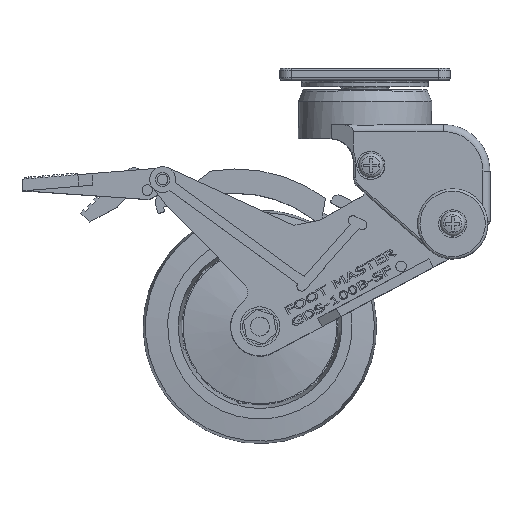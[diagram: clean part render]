
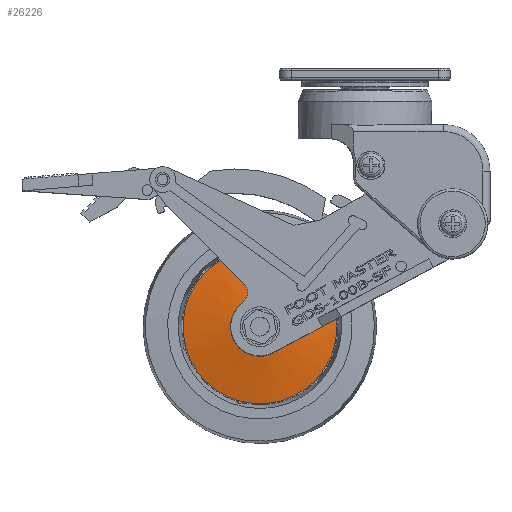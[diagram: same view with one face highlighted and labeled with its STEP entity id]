
A CAD part, top view. The second image highlights one B-rep face of the part: STEP entity #26226.
In plain terms, the highlighted conical face has half-angle 79.854 degrees and reference radius 22.801 mm.
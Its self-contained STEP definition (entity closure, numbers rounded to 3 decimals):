
#15240=CARTESIAN_POINT('',(107.019,94.149,19.8));
#15241=VERTEX_POINT('',#15240);
#15248=CARTESIAN_POINT('',(91.71,114.198,19.8));
#15249=VERTEX_POINT('',#15248);
#15250=CARTESIAN_POINT('',(99.621,104.369,19.8));
#15251=DIRECTION('',(0.0,0.0,1.0));
#15252=DIRECTION('',(0.961,0.276,0.0));
#15253=AXIS2_PLACEMENT_3D('',#15250,#15251,#15252);
#15254=CIRCLE('',#15253,12.617);
#15255=EDGE_CURVE('',#15241,#15249,#15254,.T.);
#26200=CARTESIAN_POINT('',(99.621,104.369,17.977));
#26201=DIRECTION('',(0.0,0.0,-1.0));
#26202=DIRECTION('',(0.961,0.276,0.0));
#26203=AXIS2_PLACEMENT_3D('',#26200,#26201,#26202);
#26204=CONICAL_SURFACE('',#26203,22.801,79.854);
#26205=CARTESIAN_POINT('',(99.621,104.369,19.8));
#26206=DIRECTION('',(0.0,0.0,1.0));
#26207=DIRECTION('',(0.961,0.276,0.0));
#26208=AXIS2_PLACEMENT_3D('',#26205,#26206,#26207);
#26209=CIRCLE('',#26208,12.617);
#26210=EDGE_CURVE('',#15249,#15241,#26209,.T.);
#26211=ORIENTED_EDGE('',*,*,#26210,.F.);
#26212=ORIENTED_EDGE('',*,*,#15255,.F.);
#26213=EDGE_LOOP('',(#26211,#26212));
#26214=FACE_OUTER_BOUND('',#26213,.T.);
#26215=CARTESIAN_POINT('',(67.915,95.272,16.155));
#26216=VERTEX_POINT('',#26215);
#26217=CARTESIAN_POINT('',(99.621,104.369,16.155));
#26218=DIRECTION('',(0.0,0.0,1.));
#26219=DIRECTION('',(0.961,0.276,0.0));
#26220=AXIS2_PLACEMENT_3D('',#26217,#26218,#26219);
#26221=CIRCLE('',#26220,32.985);
#26222=EDGE_CURVE('',#26216,#26216,#26221,.T.);
#26223=ORIENTED_EDGE('',*,*,#26222,.T.);
#26224=EDGE_LOOP('',(#26223));
#26225=FACE_BOUND('',#26224,.T.);
#26226=ADVANCED_FACE('',(#26214,#26225),#26204,.T.);
